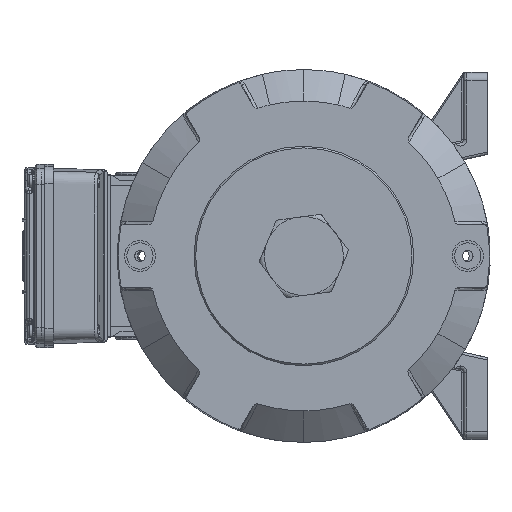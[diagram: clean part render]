
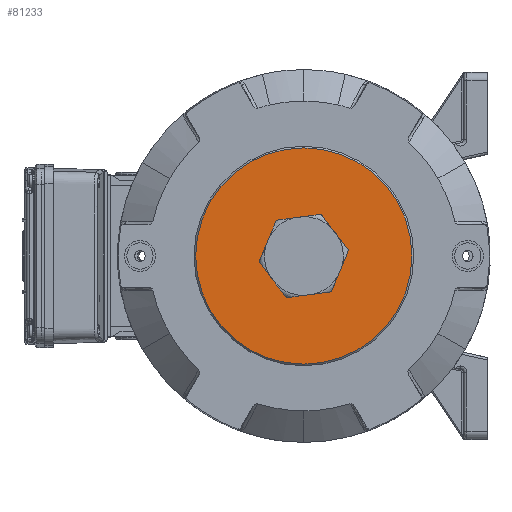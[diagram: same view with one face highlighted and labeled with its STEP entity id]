
A CAD part, left-side view. The second image highlights one B-rep face of the part: STEP entity #81233.
In plain terms, the highlighted planar face has unit normal (-1, 0, 0) as drawn and (1, 0, 0) by its records, which use the part's own axes.
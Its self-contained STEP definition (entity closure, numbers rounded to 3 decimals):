
#1069 = EDGE_CURVE ( 'NONE', #36604, #35514, #152593, .T. ) ;
#2382 = CIRCLE ( 'NONE', #115339, 66. ) ;
#2703 = DIRECTION ( 'NONE',  ( 1., 0., 0. ) ) ;
#4195 = EDGE_LOOP ( 'NONE', ( #132686, #155498 ) ) ;
#5270 = DIRECTION ( 'NONE',  ( 1., 0., 0. ) ) ;
#7349 = CARTESIAN_POINT ( 'NONE',  ( 124., 0., 19.25 ) ) ;
#8765 = EDGE_CURVE ( 'NONE', #123343, #16405, #44819, .T. ) ;
#9525 = ORIENTED_EDGE ( 'NONE', *, *, #78185, .T. ) ;
#16405 = VERTEX_POINT ( 'NONE', #7349 ) ;
#19990 = AXIS2_PLACEMENT_3D ( 'NONE', #84696, #5270, #97999 ) ;
#29509 = DIRECTION ( 'NONE',  ( 1., 0., 0. ) ) ;
#35514 = VERTEX_POINT ( 'NONE', #63118 ) ;
#36604 = VERTEX_POINT ( 'NONE', #80528 ) ;
#44819 = CIRCLE ( 'NONE', #142490, 19.25 ) ;
#47486 = FACE_BOUND ( 'NONE', #4195, .T. ) ;
#55420 = DIRECTION ( 'NONE',  ( 1., 0., 0. ) ) ;
#62195 = DIRECTION ( 'NONE',  ( 1., 0., 0. ) ) ;
#63118 = CARTESIAN_POINT ( 'NONE',  ( 124., 0., -66. ) ) ;
#78185 = EDGE_CURVE ( 'NONE', #35514, #36604, #2382, .T. ) ;
#80528 = CARTESIAN_POINT ( 'NONE',  ( 124., 0., 66. ) ) ;
#81233 = ADVANCED_FACE ( 'NONE', ( #113957, #47486 ), #81521, .T. ) ;
#81485 = ORIENTED_EDGE ( 'NONE', *, *, #1069, .T. ) ;
#81521 = PLANE ( 'NONE',  #131363 ) ;
#82112 = CARTESIAN_POINT ( 'NONE',  ( 124., 0., 0. ) ) ;
#84696 = CARTESIAN_POINT ( 'NONE',  ( 124., 0., 0. ) ) ;
#92379 = CIRCLE ( 'NONE', #103977, 19.25 ) ;
#95444 = DIRECTION ( 'NONE',  ( 0., 0., -1. ) ) ;
#97999 = DIRECTION ( 'NONE',  ( 0., 0., -1. ) ) ;
#101403 = CARTESIAN_POINT ( 'NONE',  ( 124., 0., -19.25 ) ) ;
#103977 = AXIS2_PLACEMENT_3D ( 'NONE', #134994, #55420, #148254 ) ;
#108997 = CARTESIAN_POINT ( 'NONE',  ( 124., 0., 0. ) ) ;
#113957 = FACE_OUTER_BOUND ( 'NONE', #131244, .T. ) ;
#115339 = AXIS2_PLACEMENT_3D ( 'NONE', #108997, #29509, #122369 ) ;
#122369 = DIRECTION ( 'NONE',  ( 0., 0., -1. ) ) ;
#123343 = VERTEX_POINT ( 'NONE', #101403 ) ;
#131244 = EDGE_LOOP ( 'NONE', ( #81485, #9525 ) ) ;
#131363 = AXIS2_PLACEMENT_3D ( 'NONE', #82112, #2703, #95444 ) ;
#132686 = ORIENTED_EDGE ( 'NONE', *, *, #8765, .F. ) ;
#134994 = CARTESIAN_POINT ( 'NONE',  ( 124., 0., 0. ) ) ;
#141655 = CARTESIAN_POINT ( 'NONE',  ( 124., 0., 0. ) ) ;
#142490 = AXIS2_PLACEMENT_3D ( 'NONE', #141655, #62195, #154930 ) ;
#148254 = DIRECTION ( 'NONE',  ( 0., 0., -1. ) ) ;
#152593 = CIRCLE ( 'NONE', #19990, 66. ) ;
#154930 = DIRECTION ( 'NONE',  ( 0., 0., -1. ) ) ;
#155498 = ORIENTED_EDGE ( 'NONE', *, *, #155951, .F. ) ;
#155951 = EDGE_CURVE ( 'NONE', #16405, #123343, #92379, .T. ) ;
